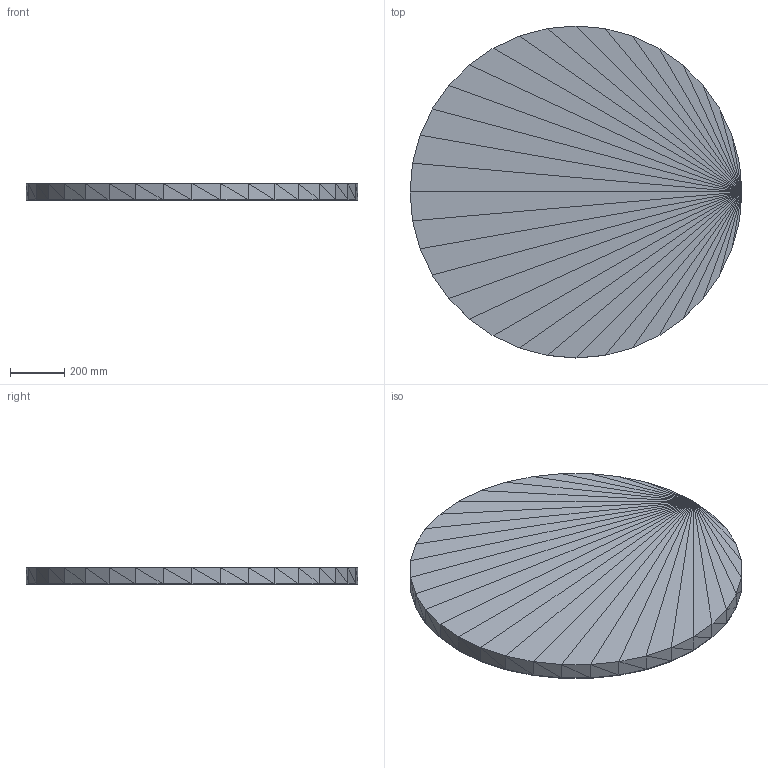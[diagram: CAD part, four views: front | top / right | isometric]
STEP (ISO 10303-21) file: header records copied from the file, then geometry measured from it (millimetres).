
FILE_DESCRIPTION(('ISINAC STEP AP214'),'2;1');
FILE_NAME('ISINAC_CIR.1220_60mm_IMANTADA','2026-05-03T10:49:20',('ISINAC'),('www.isinac.com'),'ISINAC BIM Generator 1.0','','');
FILE_SCHEMA(('AUTOMOTIVE_DESIGN'));
Length unit declared in the file: millimetre
Products named in the file (1): ISINAC_CIR.1220_60mm_IMANTADA
Bounding box: 1220 x 1220 x 62 mm (x, y, z)
Surface area: 4889571.4 mm2 (no closed solid volume)
Topology: 0 solids, 280 shells, 280 faces, 840 edges, 840 vertices
Faces by surface type: plane 280
Entity records: 3093 total; most frequent: CARTESIAN_POINT 1120, DIRECTION 560, POLY_LOOP 280, FACE_OUTER_BOUND 280, AXIS2_PLACEMENT_3D 280, PLANE 280, FACE_SURFACE 280, CLOSED_SHELL 1
